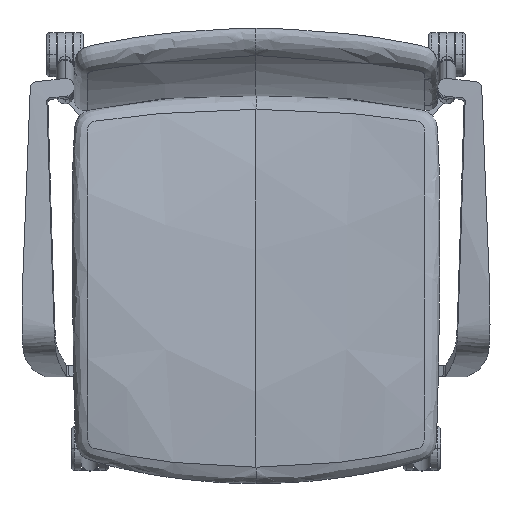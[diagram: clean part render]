
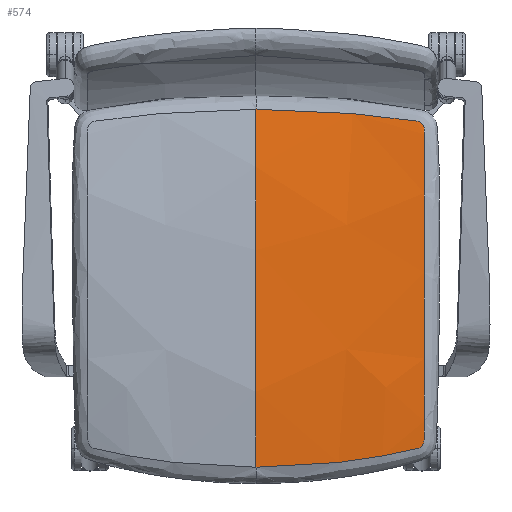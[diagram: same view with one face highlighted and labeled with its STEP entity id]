
A CAD part, top view. The second image highlights one B-rep face of the part: STEP entity #574.
In plain terms, the highlighted free-form (B-spline) face has degree [3, 3] with [6, 5] control points.
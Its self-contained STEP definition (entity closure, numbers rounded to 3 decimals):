
#51=B_SPLINE_SURFACE_WITH_KNOTS('',3,3,((#8287,#8288,#8289,#8290,#8291),
(#8292,#8293,#8294,#8295,#8296),(#8297,#8298,#8299,#8300,#8301),(#8302,
#8303,#8304,#8305,#8306),(#8307,#8308,#8309,#8310,#8311),(#8312,#8313,#8314,
#8315,#8316)),.UNSPECIFIED.,.F.,.F.,.F.,(4,1,1,4),(4,1,4),(0.,150.405,
300.811,451.216),(0.,113.023,226.045),
 .UNSPECIFIED.);
#159=B_SPLINE_CURVE_WITH_KNOTS('',3,(#8915,#8916,#8917,#8918,#8919,#8920),
 .UNSPECIFIED.,.F.,.F.,(4,1,1,4),(14.636,150.405,300.811,
436.736),.UNSPECIFIED.);
#162=B_SPLINE_CURVE_WITH_KNOTS('',3,(#8991,#8992,#8993,#8994,#8995,#8996,
#8997,#8998,#8999,#9000,#9001,#9002,#9003,#9004,#9005,#9006,#9007,#9008,
#9009,#9010,#9011,#9012,#9013,#9014,#9015,#9016,#9017,#9018,#9019,#9020,
#9021,#9022,#9023,#9024,#9025,#9026,#9027,#9028,#9029,#9030,#9031,#9032,
#9033,#9034,#9035,#9036,#9037,#9038,#9039,#9040,#9041,#9042,#9043,#9044,
#9045,#9046,#9047,#9048,#9049,#9050,#9051,#9052,#9053,#9054,#9055,#9056),
 .UNSPECIFIED.,.F.,.F.,(4,2,2,2,1,1,1,2,2,2,2,2,1,1,1,2,2,2,2,2,2,2,2,2,
1,1,1,2,2,2,2,2,1,1,1,2,2,2,4),(-834.547,-732.977,-707.585,
-682.192,-634.077,-631.407,-628.738,
-626.069,-623.399,-620.73,-618.061,
-615.391,-612.722,-610.053,-607.384,
-561.831,-513.608,-489.497,-465.386,
-417.164,-368.942,-344.831,-320.72,
-272.498,-226.987,-224.275,-221.564,
-218.853,-216.141,-213.43,-210.718,
-208.007,-205.295,-202.584,-199.872,
-151.938,-126.615,-101.292,0.),.UNSPECIFIED.);
#574=ADVANCED_FACE('',(#794),#51,.T.);
#794=FACE_OUTER_BOUND('',#1014,.T.);
#1014=EDGE_LOOP('',(#1621,#1622));
#1621=ORIENTED_EDGE('',*,*,#2300,.F.);
#1622=ORIENTED_EDGE('',*,*,#2303,.F.);
#2300=EDGE_CURVE('',#2913,#2912,#159,.T.);
#2303=EDGE_CURVE('',#2912,#2913,#162,.T.);
#2912=VERTEX_POINT('',#8907);
#2913=VERTEX_POINT('',#8908);
#8287=CARTESIAN_POINT('',(222.5,-257.5,438.92));
#8288=CARTESIAN_POINT('',(186.336,-267.419,447.436));
#8289=CARTESIAN_POINT('',(112.582,-282.432,452.217));
#8290=CARTESIAN_POINT('',(37.527,-287.459,452.479));
#8291=CARTESIAN_POINT('',(0.,-287.459,452.479));
#8292=CARTESIAN_POINT('',(222.5,-210.234,447.665));
#8293=CARTESIAN_POINT('',(186.401,-218.252,457.09));
#8294=CARTESIAN_POINT('',(112.677,-230.383,460.207));
#8295=CARTESIAN_POINT('',(37.559,-234.444,459.909));
#8296=CARTESIAN_POINT('',(0.,-234.444,459.909));
#8297=CARTESIAN_POINT('',(222.5,-115.677,451.522));
#8298=CARTESIAN_POINT('',(186.531,-119.935,458.649));
#8299=CARTESIAN_POINT('',(112.867,-126.362,454.263));
#8300=CARTESIAN_POINT('',(37.622,-128.511,452.788));
#8301=CARTESIAN_POINT('',(0.,-128.511,452.788));
#8302=CARTESIAN_POINT('',(222.5,26.117,446.406));
#8303=CARTESIAN_POINT('',(186.726,27.366,449.741));
#8304=CARTESIAN_POINT('',(113.151,29.293,439.584));
#8305=CARTESIAN_POINT('',(37.717,29.944,436.172));
#8306=CARTESIAN_POINT('',(0.,29.944,436.172));
#8307=CARTESIAN_POINT('',(222.5,120.418,435.736));
#8308=CARTESIAN_POINT('',(186.856,125.229,436.319));
#8309=CARTESIAN_POINT('',(113.341,132.56,425.981));
#8310=CARTESIAN_POINT('',(37.78,135.024,421.165));
#8311=CARTESIAN_POINT('',(0.,135.024,421.165));
#8312=CARTESIAN_POINT('',(222.5,167.5,423.588));
#8313=CARTESIAN_POINT('',(186.92,174.063,420.741));
#8314=CARTESIAN_POINT('',(113.436,184.054,408.229));
#8315=CARTESIAN_POINT('',(37.812,187.409,402.683));
#8316=CARTESIAN_POINT('',(0.,187.409,402.683));
#8907=CARTESIAN_POINT('',(0.,172.275,407.725));
#8908=CARTESIAN_POINT('',(0.,-271.984,454.345));
#8915=CARTESIAN_POINT('',(0.,-271.984,454.345));
#8916=CARTESIAN_POINT('',(0.,-224.136,459.206));
#8917=CARTESIAN_POINT('',(0.,-123.372,452.249));
#8918=CARTESIAN_POINT('',(0.,24.859,436.705));
#8919=CARTESIAN_POINT('',(0.,124.906,422.601));
#8920=CARTESIAN_POINT('',(0.,172.275,407.725));
#8991=CARTESIAN_POINT('',(0.,172.275,407.725));
#8992=CARTESIAN_POINT('',(33.428,172.274,407.725));
#8993=CARTESIAN_POINT('',(66.833,171.067,409.808));
#8994=CARTESIAN_POINT('',(108.273,168.045,414.155));
#8995=CARTESIAN_POINT('',(116.546,167.365,415.119));
#8996=CARTESIAN_POINT('',(133.064,165.851,417.169));
#8997=CARTESIAN_POINT('',(141.303,165.018,418.245));
#8998=CARTESIAN_POINT('',(165.179,162.377,421.343));
#8999=CARTESIAN_POINT('',(181.515,160.261,423.451));
#9000=CARTESIAN_POINT('',(199.038,157.674,425.137));
#9001=CARTESIAN_POINT('',(200.949,157.297,425.337));
#9002=CARTESIAN_POINT('',(202.303,156.803,425.534));
#9003=CARTESIAN_POINT('',(203.554,156.216,425.745));
#9004=CARTESIAN_POINT('',(204.158,155.865,425.863));
#9005=CARTESIAN_POINT('',(205.273,155.048,426.12));
#9006=CARTESIAN_POINT('',(205.785,154.581,426.26));
#9007=CARTESIAN_POINT('',(206.691,153.546,426.555));
#9008=CARTESIAN_POINT('',(207.084,152.978,426.71));
#9009=CARTESIAN_POINT('',(207.737,151.775,427.029));
#9010=CARTESIAN_POINT('',(207.999,151.137,427.193));
#9011=CARTESIAN_POINT('',(208.399,149.838,427.519));
#9012=CARTESIAN_POINT('',(208.689,148.451,427.857));
#9013=CARTESIAN_POINT('',(208.776,146.557,428.302));
#9014=CARTESIAN_POINT('',(208.742,129.822,432.126));
#9015=CARTESIAN_POINT('',(208.749,114.125,435.006));
#9016=CARTESIAN_POINT('',(208.73,83.211,439.722));
#9017=CARTESIAN_POINT('',(208.724,67.267,441.629));
#9018=CARTESIAN_POINT('',(208.712,43.289,444.027));
#9019=CARTESIAN_POINT('',(208.709,35.291,444.748));
#9020=CARTESIAN_POINT('',(208.701,19.285,446.088));
#9021=CARTESIAN_POINT('',(208.697,11.276,446.707));
#9022=CARTESIAN_POINT('',(208.686,-12.757,448.414));
#9023=CARTESIAN_POINT('',(208.678,-28.794,449.35));
#9024=CARTESIAN_POINT('',(208.663,-60.887,450.815));
#9025=CARTESIAN_POINT('',(208.656,-76.942,451.344));
#9026=CARTESIAN_POINT('',(208.644,-101.031,451.833));
#9027=CARTESIAN_POINT('',(208.641,-109.063,451.945));
#9028=CARTESIAN_POINT('',(208.633,-125.124,452.068));
#9029=CARTESIAN_POINT('',(208.629,-133.157,452.078));
#9030=CARTESIAN_POINT('',(208.618,-157.252,451.877));
#9031=CARTESIAN_POINT('',(208.609,-173.304,451.433));
#9032=CARTESIAN_POINT('',(208.599,-204.505,449.545));
#9033=CARTESIAN_POINT('',(208.578,-220.395,448.101));
#9034=CARTESIAN_POINT('',(208.596,-237.426,445.773));
#9035=CARTESIAN_POINT('',(208.506,-239.362,445.519));
#9036=CARTESIAN_POINT('',(208.218,-240.795,445.378));
#9037=CARTESIAN_POINT('',(207.826,-242.142,445.27));
#9038=CARTESIAN_POINT('',(207.57,-242.807,445.23));
#9039=CARTESIAN_POINT('',(206.935,-244.072,445.185));
#9040=CARTESIAN_POINT('',(206.555,-244.674,445.18));
#9041=CARTESIAN_POINT('',(205.68,-245.787,445.206));
#9042=CARTESIAN_POINT('',(205.185,-246.298,445.238));
#9043=CARTESIAN_POINT('',(204.107,-247.21,445.334));
#9044=CARTESIAN_POINT('',(203.522,-247.613,445.4));
#9045=CARTESIAN_POINT('',(202.306,-248.306,445.554));
#9046=CARTESIAN_POINT('',(200.982,-248.912,445.74));
#9047=CARTESIAN_POINT('',(199.118,-249.435,446.046));
#9048=CARTESIAN_POINT('',(181.911,-253.338,448.888));
#9049=CARTESIAN_POINT('',(165.65,-256.584,450.503));
#9050=CARTESIAN_POINT('',(141.78,-260.666,452.076));
#9051=CARTESIAN_POINT('',(133.518,-261.96,452.471));
#9052=CARTESIAN_POINT('',(116.939,-264.316,453.095));
#9053=CARTESIAN_POINT('',(108.632,-265.377,453.33));
#9054=CARTESIAN_POINT('',(67.022,-270.093,454.307));
#9055=CARTESIAN_POINT('',(33.509,-271.984,454.344));
#9056=CARTESIAN_POINT('',(0.,-271.984,454.345));
